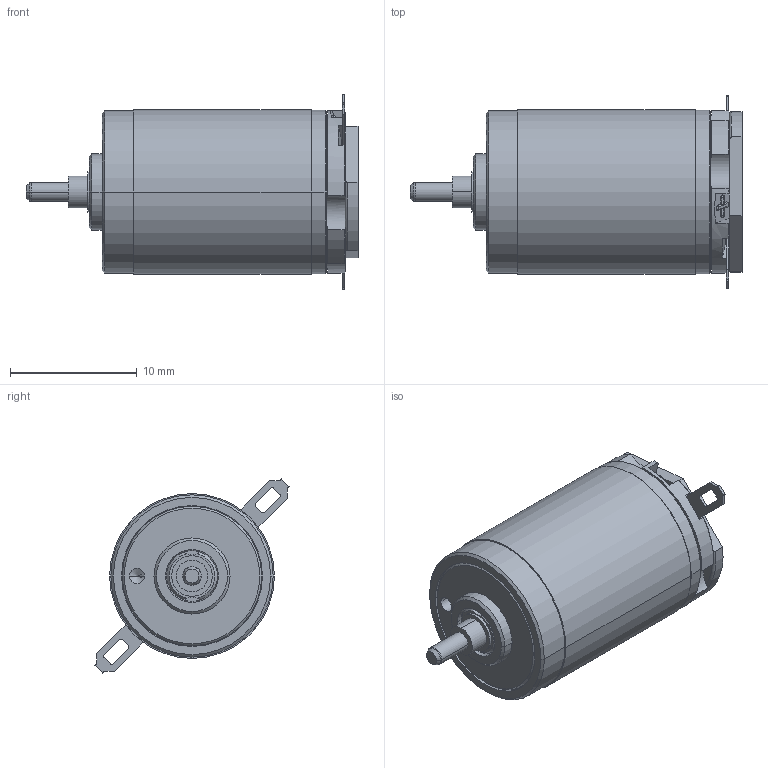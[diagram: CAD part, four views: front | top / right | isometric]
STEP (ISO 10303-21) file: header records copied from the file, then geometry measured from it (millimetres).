
FILE_DESCRIPTION((''),'2;1');
FILE_NAME('118401_12W_1WE_SW0001','2016-08-22T',('mmagpetk'),(''),'CREO PARAMETRIC BY PTC INC, 2016050','CREO PARAMETRIC BY PTC INC, 2016050','');
FILE_SCHEMA(('CONFIG_CONTROL_DESIGN'));
Length unit declared in the file: millimetre
Products named in the file (1): 118401_12W_1WE_SW0001
Bounding box: 26.2 x 15.33 x 15.33 mm (x, y, z)
Volume: 2644.4 mm3; surface area: 1389.8 mm2
Topology: 1 solids, 1 shells, 235 faces, 602 edges, 375 vertices
Faces by surface type: plane 100, cylinder 78, cone 43, torus 12, bspline 2
Entity records: 9531 total; most frequent: CARTESIAN_POINT 1868, DIRECTION 1227, ORIENTED_EDGE 1200, PRESENTATION_STYLE_ASSIGNMENT 601, STYLED_ITEM 601, CURVE_STYLE 600, EDGE_CURVE 600, AXIS2_PLACEMENT_3D 459
